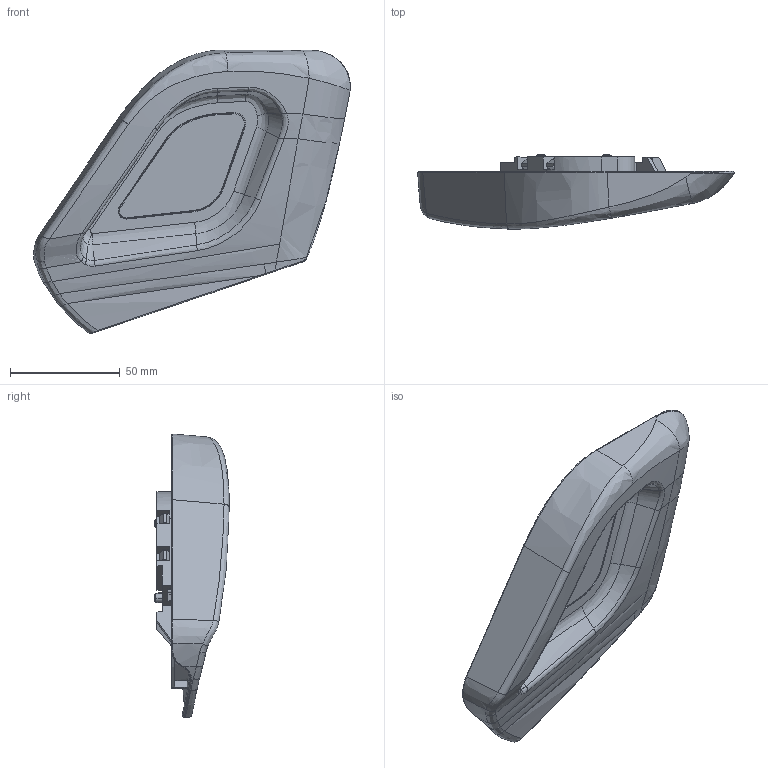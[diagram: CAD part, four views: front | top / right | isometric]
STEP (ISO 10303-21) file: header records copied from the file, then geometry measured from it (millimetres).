
FILE_DESCRIPTION(('CATIA V5 STEP Exchange','CAx-IF Rec.Pracs.--- Model Styling and Organization---1.4--- 2014-01-23'),'2;1');
FILE_NAME('C:\Users\luhaitao\Desktop\塑料件平台项目\样件清单2\03.stp','2025-06-13T03:35:43+00:00',('none'),('none'),'CATIA Version 5-6 Release 2017','CATIA V5 STEP AP214','none');
FILE_SCHEMA(('AUTOMOTIVE_DESIGN { 1 0 10303 214 1 1 1 1 }'));
Products named in the file (1): 03
Bounding box: 144.09 x 33.88 x 129.11 mm (x, y, z)
Volume: 66143.4 mm3; surface area: 51480.4 mm2
Topology: 2 solids, 2 shells, 528 faces, 1533 edges, 1001 vertices
Faces by surface type: bspline 258, plane 210, cylinder 33, extrusion 21, cone 4, sphere 2
Entity records: 47062 total; most frequent: CARTESIAN_POINT 36097, ORIENTED_EDGE 3050, EDGE_CURVE 1525, DIRECTION 1000, VERTEX_POINT 999, B_SPLINE_CURVE_WITH_KNOTS 852, VECTOR 561, EDGE_LOOP 548
